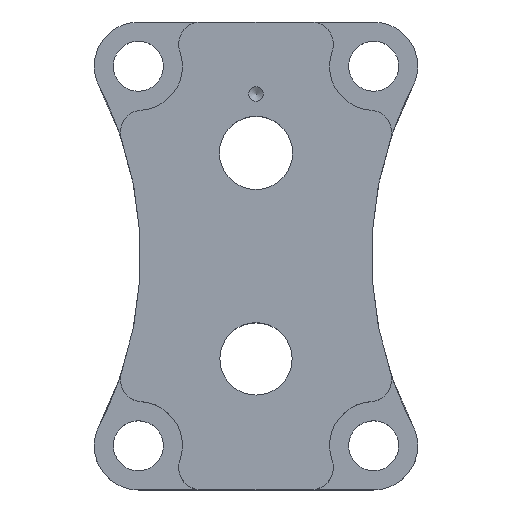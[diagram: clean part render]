
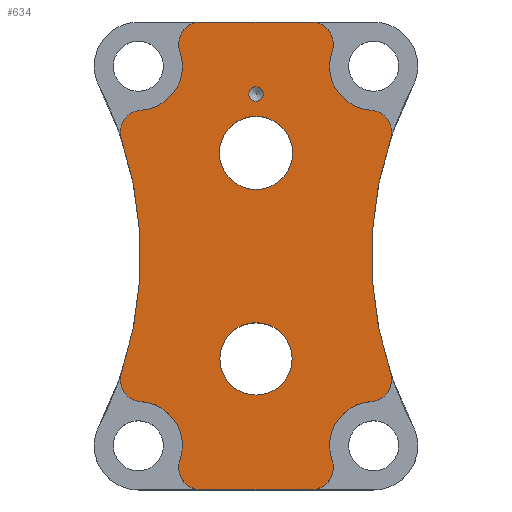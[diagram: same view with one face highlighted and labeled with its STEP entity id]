
A CAD part, top view. The second image highlights one B-rep face of the part: STEP entity #634.
In plain terms, the highlighted planar face has unit normal (0, 0, 1).
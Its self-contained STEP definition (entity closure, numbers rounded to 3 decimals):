
#16=FACE_BOUND('',#109,.T.);
#17=FACE_BOUND('',#110,.T.);
#18=FACE_BOUND('',#111,.T.);
#29=PLANE('',#713);
#73=FACE_OUTER_BOUND('',#108,.T.);
#108=EDGE_LOOP('',(#483,#484,#485,#486,#487,#488,#489,#490,#491,#492,#493,
#494,#495,#496,#497,#498));
#109=EDGE_LOOP('',(#499));
#110=EDGE_LOOP('',(#500));
#111=EDGE_LOOP('',(#501));
#155=LINE('',#1068,#195);
#156=LINE('',#1083,#196);
#195=VECTOR('',#860,10.);
#196=VECTOR('',#875,10.);
#223=CIRCLE('',#682,0.5);
#224=CIRCLE('',#684,2.489);
#226=CIRCLE('',#687,2.459);
#237=CIRCLE('',#703,1.5);
#239=CIRCLE('',#706,3.);
#241=CIRCLE('',#709,1.5);
#244=CIRCLE('',#714,25.);
#245=CIRCLE('',#715,1.5);
#246=CIRCLE('',#716,3.);
#247=CIRCLE('',#717,1.5);
#248=CIRCLE('',#718,1.5);
#249=CIRCLE('',#719,3.);
#250=CIRCLE('',#720,1.5);
#251=CIRCLE('',#721,25.);
#252=CIRCLE('',#722,1.5);
#253=CIRCLE('',#723,3.);
#254=CIRCLE('',#724,1.5);
#278=VERTEX_POINT('',#992);
#279=VERTEX_POINT('',#996);
#281=VERTEX_POINT('',#1002);
#293=VERTEX_POINT('',#1035);
#294=VERTEX_POINT('',#1037);
#296=VERTEX_POINT('',#1043);
#298=VERTEX_POINT('',#1049);
#301=VERTEX_POINT('',#1059);
#302=VERTEX_POINT('',#1061);
#303=VERTEX_POINT('',#1063);
#304=VERTEX_POINT('',#1065);
#305=VERTEX_POINT('',#1067);
#306=VERTEX_POINT('',#1069);
#307=VERTEX_POINT('',#1071);
#308=VERTEX_POINT('',#1073);
#309=VERTEX_POINT('',#1075);
#310=VERTEX_POINT('',#1077);
#311=VERTEX_POINT('',#1079);
#312=VERTEX_POINT('',#1081);
#341=EDGE_CURVE('',#278,#278,#223,.T.);
#343=EDGE_CURVE('',#279,#279,#224,.T.);
#346=EDGE_CURVE('',#281,#281,#226,.T.);
#363=EDGE_CURVE('',#294,#293,#237,.T.);
#366=EDGE_CURVE('',#296,#294,#239,.T.);
#369=EDGE_CURVE('',#298,#296,#241,.T.);
#374=EDGE_CURVE('',#301,#293,#244,.T.);
#375=EDGE_CURVE('',#301,#302,#245,.T.);
#376=EDGE_CURVE('',#302,#303,#246,.T.);
#377=EDGE_CURVE('',#303,#304,#247,.T.);
#378=EDGE_CURVE('',#304,#305,#155,.T.);
#379=EDGE_CURVE('',#305,#306,#248,.T.);
#380=EDGE_CURVE('',#306,#307,#249,.T.);
#381=EDGE_CURVE('',#307,#308,#250,.T.);
#382=EDGE_CURVE('',#309,#308,#251,.T.);
#383=EDGE_CURVE('',#309,#310,#252,.T.);
#384=EDGE_CURVE('',#310,#311,#253,.T.);
#385=EDGE_CURVE('',#311,#312,#254,.T.);
#386=EDGE_CURVE('',#312,#298,#156,.T.);
#483=ORIENTED_EDGE('',*,*,#369,.T.);
#484=ORIENTED_EDGE('',*,*,#366,.T.);
#485=ORIENTED_EDGE('',*,*,#363,.T.);
#486=ORIENTED_EDGE('',*,*,#374,.F.);
#487=ORIENTED_EDGE('',*,*,#375,.T.);
#488=ORIENTED_EDGE('',*,*,#376,.T.);
#489=ORIENTED_EDGE('',*,*,#377,.T.);
#490=ORIENTED_EDGE('',*,*,#378,.T.);
#491=ORIENTED_EDGE('',*,*,#379,.T.);
#492=ORIENTED_EDGE('',*,*,#380,.T.);
#493=ORIENTED_EDGE('',*,*,#381,.T.);
#494=ORIENTED_EDGE('',*,*,#382,.F.);
#495=ORIENTED_EDGE('',*,*,#383,.T.);
#496=ORIENTED_EDGE('',*,*,#384,.T.);
#497=ORIENTED_EDGE('',*,*,#385,.T.);
#498=ORIENTED_EDGE('',*,*,#386,.T.);
#499=ORIENTED_EDGE('',*,*,#341,.T.);
#500=ORIENTED_EDGE('',*,*,#343,.T.);
#501=ORIENTED_EDGE('',*,*,#346,.T.);
#634=ADVANCED_FACE('',(#73,#16,#17,#18),#29,.T.);
#682=AXIS2_PLACEMENT_3D('',#993,#776,#777);
#684=AXIS2_PLACEMENT_3D('',#997,#781,#782);
#687=AXIS2_PLACEMENT_3D('',#1003,#788,#789);
#703=AXIS2_PLACEMENT_3D('',#1038,#826,#827);
#706=AXIS2_PLACEMENT_3D('',#1044,#833,#834);
#709=AXIS2_PLACEMENT_3D('',#1050,#840,#841);
#713=AXIS2_PLACEMENT_3D('',#1058,#850,#851);
#714=AXIS2_PLACEMENT_3D('',#1060,#852,#853);
#715=AXIS2_PLACEMENT_3D('',#1062,#854,#855);
#716=AXIS2_PLACEMENT_3D('',#1064,#856,#857);
#717=AXIS2_PLACEMENT_3D('',#1066,#858,#859);
#718=AXIS2_PLACEMENT_3D('',#1070,#861,#862);
#719=AXIS2_PLACEMENT_3D('',#1072,#863,#864);
#720=AXIS2_PLACEMENT_3D('',#1074,#865,#866);
#721=AXIS2_PLACEMENT_3D('',#1076,#867,#868);
#722=AXIS2_PLACEMENT_3D('',#1078,#869,#870);
#723=AXIS2_PLACEMENT_3D('',#1080,#871,#872);
#724=AXIS2_PLACEMENT_3D('',#1082,#873,#874);
#776=DIRECTION('center_axis',(0.,0.,-1.));
#777=DIRECTION('ref_axis',(1.,0.,0.));
#781=DIRECTION('center_axis',(0.,0.,-1.));
#782=DIRECTION('ref_axis',(1.,0.,0.));
#788=DIRECTION('center_axis',(0.,0.,-1.));
#789=DIRECTION('ref_axis',(1.,0.,0.));
#826=DIRECTION('center_axis',(0.,0.,1.));
#827=DIRECTION('ref_axis',(-0.062,0.998,0.));
#833=DIRECTION('center_axis',(0.,0.,-1.));
#834=DIRECTION('ref_axis',(-0.062,0.998,0.));
#840=DIRECTION('center_axis',(0.,0.,1.));
#841=DIRECTION('ref_axis',(0.,1.,0.));
#850=DIRECTION('center_axis',(0.,0.,1.));
#851=DIRECTION('ref_axis',(1.,0.,0.));
#852=DIRECTION('center_axis',(0.,0.,1.));
#853=DIRECTION('ref_axis',(1.,0.,0.));
#854=DIRECTION('center_axis',(0.,0.,1.));
#855=DIRECTION('ref_axis',(-0.062,-0.998,0.));
#856=DIRECTION('center_axis',(0.,0.,-1.));
#857=DIRECTION('ref_axis',(-0.062,-0.998,0.));
#858=DIRECTION('center_axis',(0.,0.,1.));
#859=DIRECTION('ref_axis',(0.,-1.,0.));
#860=DIRECTION('',(-1.,0.,0.));
#861=DIRECTION('center_axis',(0.,0.,1.));
#862=DIRECTION('ref_axis',(0.,-1.,0.));
#863=DIRECTION('center_axis',(0.,0.,-1.));
#864=DIRECTION('ref_axis',(0.062,-0.998,0.));
#865=DIRECTION('center_axis',(0.,0.,1.));
#866=DIRECTION('ref_axis',(0.062,-0.998,0.));
#867=DIRECTION('center_axis',(0.,0.,1.));
#868=DIRECTION('ref_axis',(-1.,0.,0.));
#869=DIRECTION('center_axis',(0.,0.,1.));
#870=DIRECTION('ref_axis',(0.062,0.998,0.));
#871=DIRECTION('center_axis',(0.,0.,-1.));
#872=DIRECTION('ref_axis',(0.062,0.998,0.));
#873=DIRECTION('center_axis',(0.,0.,1.));
#874=DIRECTION('ref_axis',(0.,1.,0.));
#875=DIRECTION('',(1.,0.,0.));
#992=CARTESIAN_POINT('',(-0.5,11.,8.));
#993=CARTESIAN_POINT('Origin',(0.,11.,8.));
#996=CARTESIAN_POINT('',(-2.489,7.,8.));
#997=CARTESIAN_POINT('Origin',(0.,7.,8.));
#1002=CARTESIAN_POINT('',(-2.459,-7.,8.));
#1003=CARTESIAN_POINT('Origin',(0.,-7.,8.));
#1035=CARTESIAN_POINT('',(9.143,-7.933,8.));
#1037=CARTESIAN_POINT('',(7.814,-9.906,8.));
#1038=CARTESIAN_POINT('Origin',(7.721,-8.409,8.));
#1043=CARTESIAN_POINT('',(5.172,-13.9,8.));
#1044=CARTESIAN_POINT('Origin',(8.,-12.9,8.));
#1049=CARTESIAN_POINT('',(3.757,-15.9,8.));
#1050=CARTESIAN_POINT('Origin',(3.757,-14.4,8.));
#1058=CARTESIAN_POINT('Origin',(-8.128,12.978,8.));
#1059=CARTESIAN_POINT('',(9.143,7.933,8.));
#1060=CARTESIAN_POINT('Origin',(32.851,0.,8.));
#1061=CARTESIAN_POINT('',(7.814,9.906,8.));
#1062=CARTESIAN_POINT('Origin',(7.721,8.409,8.));
#1063=CARTESIAN_POINT('',(5.172,13.9,8.));
#1064=CARTESIAN_POINT('Origin',(8.,12.9,8.));
#1065=CARTESIAN_POINT('',(3.757,15.9,8.));
#1066=CARTESIAN_POINT('Origin',(3.757,14.4,8.));
#1067=CARTESIAN_POINT('',(-3.757,15.9,8.));
#1068=CARTESIAN_POINT('',(0.,15.9,8.));
#1069=CARTESIAN_POINT('',(-5.172,13.9,8.));
#1070=CARTESIAN_POINT('Origin',(-3.757,14.4,8.));
#1071=CARTESIAN_POINT('',(-7.814,9.906,8.));
#1072=CARTESIAN_POINT('Origin',(-8.,12.9,8.));
#1073=CARTESIAN_POINT('',(-9.143,7.933,8.));
#1074=CARTESIAN_POINT('Origin',(-7.721,8.409,8.));
#1075=CARTESIAN_POINT('',(-9.143,-7.933,8.));
#1076=CARTESIAN_POINT('Origin',(-32.851,0.,8.));
#1077=CARTESIAN_POINT('',(-7.814,-9.906,8.));
#1078=CARTESIAN_POINT('Origin',(-7.721,-8.409,8.));
#1079=CARTESIAN_POINT('',(-5.172,-13.9,8.));
#1080=CARTESIAN_POINT('Origin',(-8.,-12.9,8.));
#1081=CARTESIAN_POINT('',(-3.757,-15.9,8.));
#1082=CARTESIAN_POINT('Origin',(-3.757,-14.4,8.));
#1083=CARTESIAN_POINT('',(0.,-15.9,8.));
